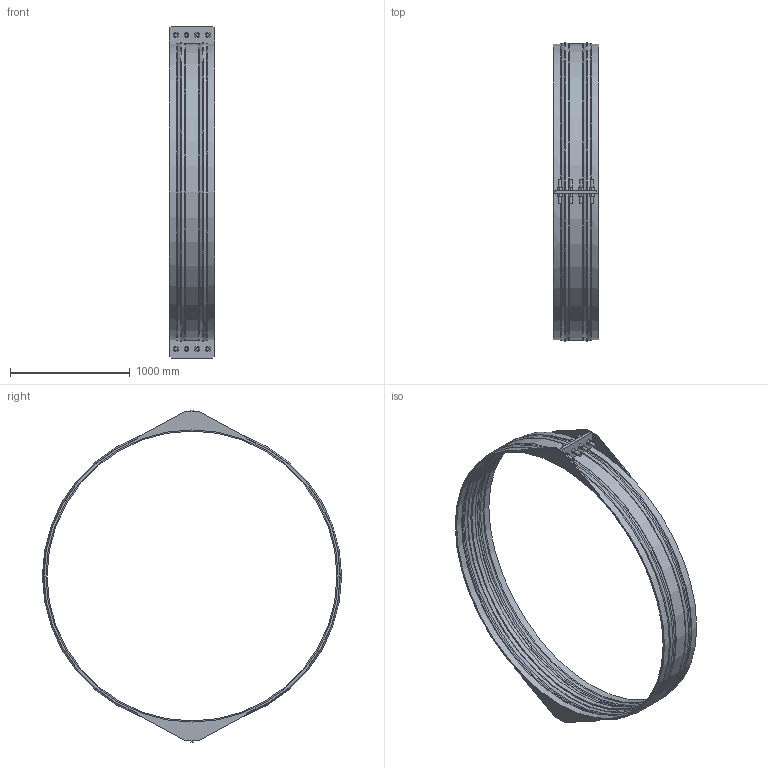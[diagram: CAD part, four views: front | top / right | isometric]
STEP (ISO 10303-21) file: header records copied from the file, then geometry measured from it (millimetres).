
FILE_DESCRIPTION(/* description */ ('VIC RESTRAINED COUPLING STYLE 233 (FLEX) (BRD)','CAx-IF Rec.Pracs.---Representation and Presentation of Product Manufacturing Information (PMI)---4.0---2014-10-13'),/* implementation_level */ '2;1');
FILE_NAME(/* name */ 'C:\Users\Vjadhav\Desktop\CAD for Inventor\Test for STEP\Vivek\Adsk_Inventor_Bolted Sleeve_iParts\STEP\Victaulic_VBSP_Coupling Flexible Restrained_Style 233 (BRD)\Victaulic_VBSP_Coupling Flexible Restrained_Style 233 (BRD)_150psi_96 (2400).stp',/* time_stamp */ '2020-09-24T12:31:48+05:00',/* author */ ('Vjadhav'),/* organization */ ('Victaulic'),/* preprocessor_version */ 'ST-DEVELOPER v17.2',/* originating_system */ 'Autodesk Inventor 2019',/* authorisation */ '');
FILE_SCHEMA (('AP242_MANAGED_MODEL_BASED_3D_ENGINEERING_MIM_LF { 1 0 10303 442 1 1 4 }'));
Length unit declared in the file: inch
Products named in the file (1): Style_233_Type_2_150psi-96.0
Bounding box: 381 x 2496.84 x 2771.14 mm (x, y, z)
Volume: 56297516.5 mm3; surface area: 7326808.2 mm2
Topology: 1 solids, 1 shells, 247 faces, 641 edges, 430 vertices
Faces by surface type: plane 174, cylinder 43, torus 18, cone 12
Full cylindrical faces by diameter (mm): 25.4 x16, 2419.35 x1, 2438.4 x2, 2444.75 x2
Entity records: 8096 total; most frequent: CARTESIAN_POINT 1528, DIRECTION 1291, ORIENTED_EDGE 1282, EDGE_CURVE 641, LINE 465, VECTOR 465, VERTEX_POINT 430, AXIS2_PLACEMENT_3D 413
